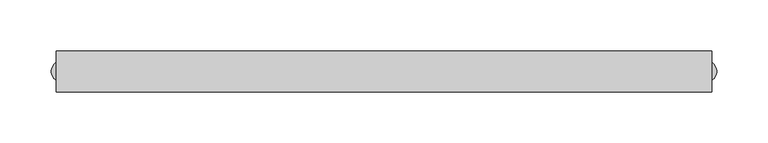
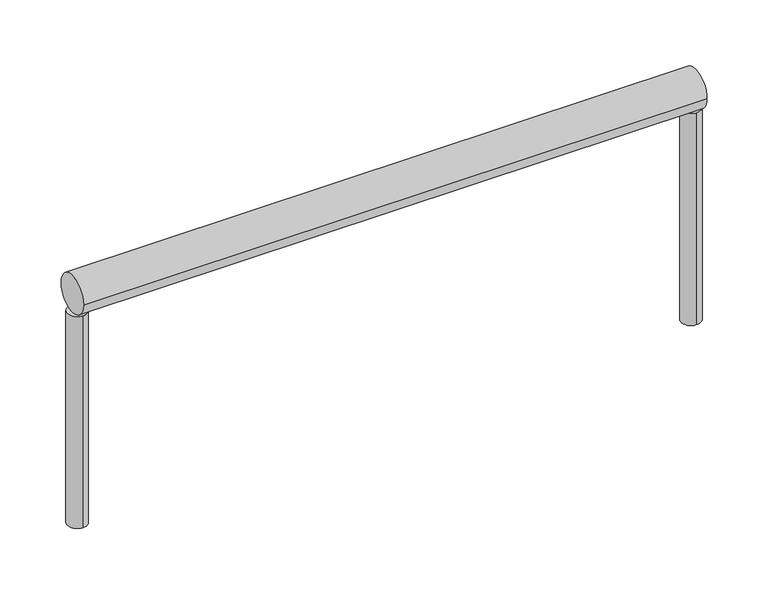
"""IFC4 building model written with IfcOpenShell, lengths in millimetres: railing geometry, Geländer-1."""

from ifc_helpers import new_model, si_unit, point, frame, frame_2d, origin, place, context, project, spatial, circle_curve, trimmed, segment, composite_curve, outline, extrude, source, transform, mapped, element, save


def railing_a331e073(model_context):
    return source(origin(), model_context, "Body", "SweptSolid", [
        extrude(outline(composite_curve([segment(trimmed(circle_curve(frame_2d((10745.0, 1250.0)), 20.0), [point((10725.0, 1250.0))], [point((10765.0, 1250.0))], False, "CARTESIAN"), True, "CONTINUOUS"), segment(trimmed(circle_curve(frame_2d((10745.0, 1250.0)), 20.0), [point((10765.0, 1250.0))], [point((10725.0, 1250.0))], False, "CARTESIAN"), True, "CONTINUOUS")], self_intersect=False)), frame((15.0, 0.0, 0.0), z_axis=(1.0, 0.0, 0.0), x_axis=(0.0, 1.0, 0.0)), (0.0, 0.0, 1.0), 640.0),
        extrude(outline(composite_curve([segment(trimmed(circle_curve(frame_2d((20.0, 10745.0)), 10.0), [point((20.0, 10735.0))], [point((20.0, 10755.0))], False, "CARTESIAN"), True, "CONTINUOUS"), segment(trimmed(circle_curve(frame_2d((20.0, 10745.0)), 10.0), [point((20.0, 10755.0))], [point((20.0, 10735.0))], False, "CARTESIAN"), True, "CONTINUOUS")], self_intersect=False)), frame((0.0, 0.0, 1000.0), z_axis=(0.0, 0.0, 1.0), x_axis=(1.0, 0.0, 0.0)), (0.0, 0.0, 1.0), 230.0),
        extrude(outline(composite_curve([segment(trimmed(circle_curve(frame_2d((650.0, 10745.0)), 10.0), [point((650.0, 10735.0))], [point((650.0, 10755.0))], False, "CARTESIAN"), True, "CONTINUOUS"), segment(trimmed(circle_curve(frame_2d((650.0, 10745.0)), 10.0), [point((650.0, 10755.0))], [point((650.0, 10735.0))], False, "CARTESIAN"), True, "CONTINUOUS")], self_intersect=False)), frame((0.0, 0.0, 1000.0), z_axis=(0.0, 0.0, 1.0), x_axis=(1.0, 0.0, 0.0)), (0.0, 0.0, 1.0), 230.0),
    ])


if __name__ == "__main__":
    model = new_model("IFC4")
    model_context = context("Model", 3, world=origin())
    ifc_project = project(units=[si_unit("LENGTHUNIT", "METRE", prefix="MILLI")], contexts=[model_context])
    site = spatial("IfcSite", under=ifc_project)
    building = spatial("IfcBuilding", under=site)
    placement = place(None, origin())
    railing_shape = railing_a331e073(model_context)
    element("IfcRailing", 1, ObjectType="Geländer-1", at=placement, inside=building, context=model_context, shape_type="MappedRepresentation", body=[
        mapped(railing_shape, transform((0.0, 0.0, 0.0), x_axis=(1.0, 0.0, 0.0), y_axis=(0.0, 1.0, 0.0), z_axis=(0.0, 0.0, 1.0))),
    ])
    save(model, "model.ifc")
